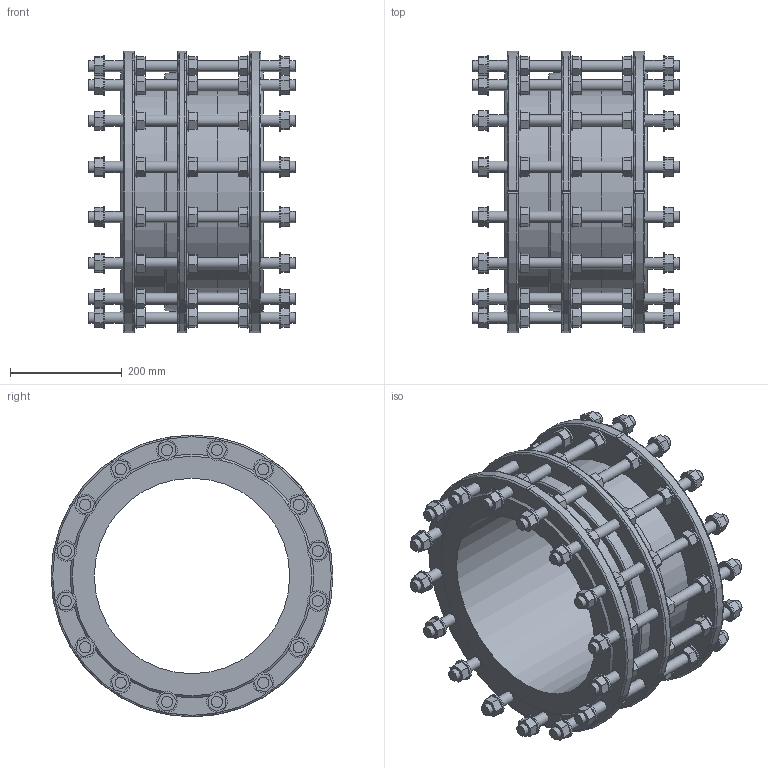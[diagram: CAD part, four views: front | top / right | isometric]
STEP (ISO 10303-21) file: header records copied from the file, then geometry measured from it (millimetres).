
FILE_DESCRIPTION (( 'STEP AP203' ), '1' );
FILE_NAME ('O_265_911_DN350_0XXXXX01_L=255_REV01.step', '2024-12-12T08:01:42', ( '' ), ( '' ), 'SwSTEP 2.0', 'SolidWorks 2022', '' );
FILE_SCHEMA (( 'CONFIG_CONTROL_DESIGN' ));
Length unit declared in the file: millimetre
Products named in the file (1): O_265_911_DN350_0XXXXX01_L=255_REV01
Bounding box: 370 x 505 x 504.96 mm (x, y, z)
Volume: 12130546.5 mm3; surface area: 1550931.9 mm2
Topology: 1 solids, 1 shells, 970 faces, 2277 edges, 1544 vertices
Faces by surface type: plane 768, cylinder 188, torus 11, cone 3
Full cylindrical faces by diameter (mm): 20 x96, 37 x80, 350 x1, 365 x2, 395 x1
Entity records: 26330 total; most frequent: CARTESIAN_POINT 4730, DIRECTION 4307, ORIENTED_EDGE 3986, EDGE_CURVE 1993, VECTOR 1573, LINE 1573, EDGE_LOOP 1457, VERTEX_POINT 1446
